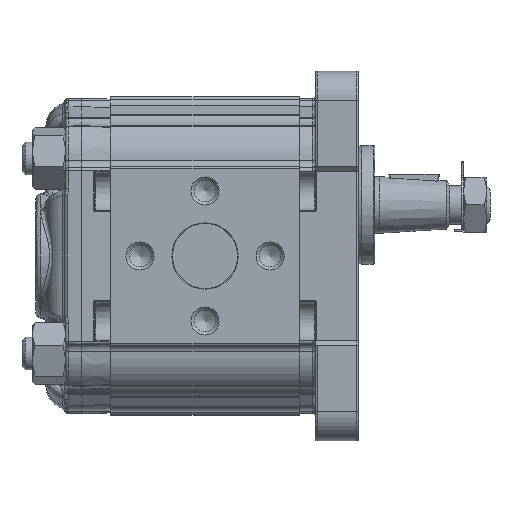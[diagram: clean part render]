
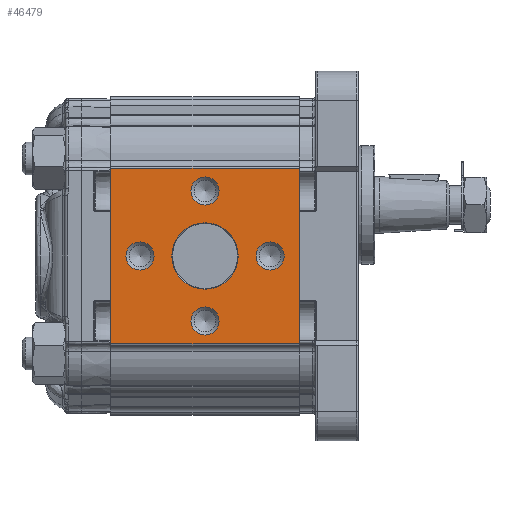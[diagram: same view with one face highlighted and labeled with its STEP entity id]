
A CAD part, left-side view. The second image highlights one B-rep face of the part: STEP entity #46479.
In plain terms, the highlighted planar face has unit normal (-1, 0, 0) as drawn and (1, 0, 0) by its records, which use the part's own axes.
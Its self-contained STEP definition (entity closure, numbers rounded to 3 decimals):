
#2656=PLANE('',#49171);
#3656=LINE('',#64307,#5532);
#3668=LINE('',#64446,#5544);
#3685=LINE('',#64490,#5561);
#3686=LINE('',#64491,#5562);
#5532=VECTOR('',#54073,1000.);
#5544=VECTOR('',#54203,1000.);
#5561=VECTOR('',#54256,1000.);
#5562=VECTOR('',#54257,1000.);
#9811=ORIENTED_EDGE('',*,*,#18099,.T.);
#9812=ORIENTED_EDGE('',*,*,#18100,.T.);
#9813=ORIENTED_EDGE('',*,*,#18101,.T.);
#9814=ORIENTED_EDGE('',*,*,#18102,.T.);
#9815=ORIENTED_EDGE('',*,*,#18103,.T.);
#9816=ORIENTED_EDGE('',*,*,#18078,.F.);
#9817=ORIENTED_EDGE('',*,*,#18104,.F.);
#9818=ORIENTED_EDGE('',*,*,#18008,.T.);
#9819=ORIENTED_EDGE('',*,*,#18105,.T.);
#18008=EDGE_CURVE('',#22381,#22380,#3656,.T.);
#18078=EDGE_CURVE('',#22448,#22449,#3668,.T.);
#18099=EDGE_CURVE('',#22453,#22453,#25115,.F.);
#18100=EDGE_CURVE('',#22454,#22454,#25116,.F.);
#18101=EDGE_CURVE('',#22455,#22455,#25117,.F.);
#18102=EDGE_CURVE('',#22456,#22456,#25118,.F.);
#18103=EDGE_CURVE('',#22457,#22457,#25119,.F.);
#18104=EDGE_CURVE('',#22381,#22448,#3685,.T.);
#18105=EDGE_CURVE('',#22380,#22449,#3686,.T.);
#22380=VERTEX_POINT('',#64306);
#22381=VERTEX_POINT('',#64308);
#22448=VERTEX_POINT('',#64445);
#22449=VERTEX_POINT('',#64447);
#22453=VERTEX_POINT('',#64481);
#22454=VERTEX_POINT('',#64483);
#22455=VERTEX_POINT('',#64485);
#22456=VERTEX_POINT('',#64487);
#22457=VERTEX_POINT('',#64489);
#25115=CIRCLE('',#49172,10.2);
#25116=CIRCLE('',#49173,4.324);
#25117=CIRCLE('',#49174,4.324);
#25118=CIRCLE('',#49175,4.324);
#25119=CIRCLE('',#49176,4.324);
#26751=EDGE_LOOP('',(#9811));
#26752=EDGE_LOOP('',(#9812));
#26753=EDGE_LOOP('',(#9813));
#26754=EDGE_LOOP('',(#9814));
#26755=EDGE_LOOP('',(#9815));
#26756=EDGE_LOOP('',(#9816,#9817,#9818,#9819));
#29092=FACE_BOUND('',#26751,.T.);
#29093=FACE_BOUND('',#26752,.T.);
#29094=FACE_BOUND('',#26753,.T.);
#29095=FACE_BOUND('',#26754,.T.);
#29096=FACE_BOUND('',#26755,.T.);
#29097=FACE_BOUND('',#26756,.T.);
#46479=ADVANCED_FACE('',(#29092,#29093,#29094,#29095,#29096,#29097),#2656,
 .T.);
#49171=AXIS2_PLACEMENT_3D('',#64479,#54244,#54245);
#49172=AXIS2_PLACEMENT_3D('',#64480,#54246,#54247);
#49173=AXIS2_PLACEMENT_3D('',#64482,#54248,#54249);
#49174=AXIS2_PLACEMENT_3D('',#64484,#54250,#54251);
#49175=AXIS2_PLACEMENT_3D('',#64486,#54252,#54253);
#49176=AXIS2_PLACEMENT_3D('',#64488,#54254,#54255);
#54073=DIRECTION('',(0.,0.,1.));
#54203=DIRECTION('',(0.,0.,1.));
#54244=DIRECTION('',(1.,0.,0.));
#54245=DIRECTION('',(0.,0.,-1.));
#54246=DIRECTION('',(1.,0.,0.));
#54247=DIRECTION('',(0.,0.,-1.));
#54248=DIRECTION('',(1.,0.,0.));
#54249=DIRECTION('',(0.,0.,-1.));
#54250=DIRECTION('',(1.,0.,0.));
#54251=DIRECTION('',(0.,0.,-1.));
#54252=DIRECTION('',(1.,0.,0.));
#54253=DIRECTION('',(0.,0.,-1.));
#54254=DIRECTION('',(1.,0.,0.));
#54255=DIRECTION('',(0.,0.,-1.));
#54256=DIRECTION('',(0.,-1.,0.));
#54257=DIRECTION('',(0.,-1.,0.));
#64306=CARTESIAN_POINT('',(43.,58.,27.048));
#64307=CARTESIAN_POINT('',(43.,58.,27.048));
#64308=CARTESIAN_POINT('',(43.,58.,-27.048));
#64445=CARTESIAN_POINT('',(43.,0.,-27.048));
#64446=CARTESIAN_POINT('',(43.,0.,27.048));
#64447=CARTESIAN_POINT('',(43.,0.,27.048));
#64479=CARTESIAN_POINT('',(43.,58.,27.048));
#64480=CARTESIAN_POINT('',(43.,29.,0.));
#64481=CARTESIAN_POINT('',(43.,29.,-10.2));
#64482=CARTESIAN_POINT('',(43.,29.,-20.));
#64483=CARTESIAN_POINT('',(43.,29.,-24.324));
#64484=CARTESIAN_POINT('',(43.,49.,0.));
#64485=CARTESIAN_POINT('',(43.,49.,-4.324));
#64486=CARTESIAN_POINT('',(43.,29.,20.));
#64487=CARTESIAN_POINT('',(43.,29.,15.677));
#64488=CARTESIAN_POINT('',(43.,9.,0.));
#64489=CARTESIAN_POINT('',(43.,9.,-4.323));
#64490=CARTESIAN_POINT('',(43.,58.,-27.048));
#64491=CARTESIAN_POINT('',(43.,58.,27.048));
